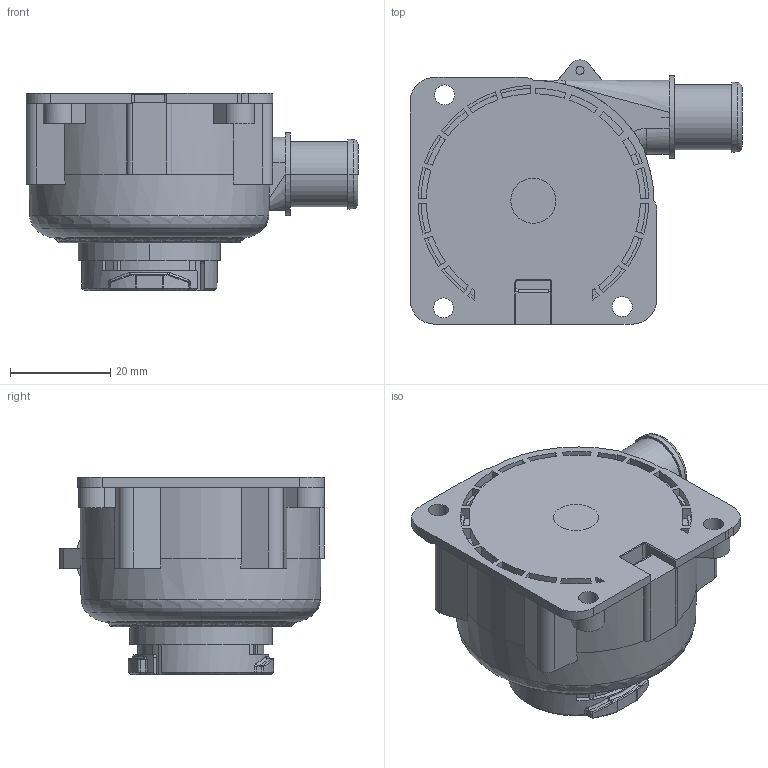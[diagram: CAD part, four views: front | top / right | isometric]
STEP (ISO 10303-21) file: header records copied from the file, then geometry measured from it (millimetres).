
FILE_DESCRIPTION((''),'2;1');
FILE_NAME('5030-00_116','2026-04-10T14:58:54',('pc'),(''),'CREO PARAMETRIC BY PTC INC, 2018050','CREO PARAMETRIC BY PTC INC, 2018050','');
FILE_SCHEMA(('CONFIG_CONTROL_DESIGN','GEOMETRIC_VALIDATION_PROPERTIES_MIM'));
Length unit declared in the file: millimetre
Products named in the file (1): 5030-00_116
Bounding box: 66.21 x 52.78 x 39.33 mm (x, y, z)
Volume: 61144.2 mm3; surface area: 13172.9 mm2
Topology: 1 solids, 5 shells, 443 faces, 1206 edges, 792 vertices
Faces by surface type: plane 183, cylinder 169, torus 34, cone 31, bspline 25, extrusion 1
Entity records: 20453 total; most frequent: CARTESIAN_POINT 4070, ORIENTED_EDGE 2390, DIRECTION 2368, PRESENTATION_STYLE_ASSIGNMENT 1383, STYLED_ITEM 1197, CURVE_STYLE 1196, EDGE_CURVE 1195, AXIS2_PLACEMENT_3D 887
